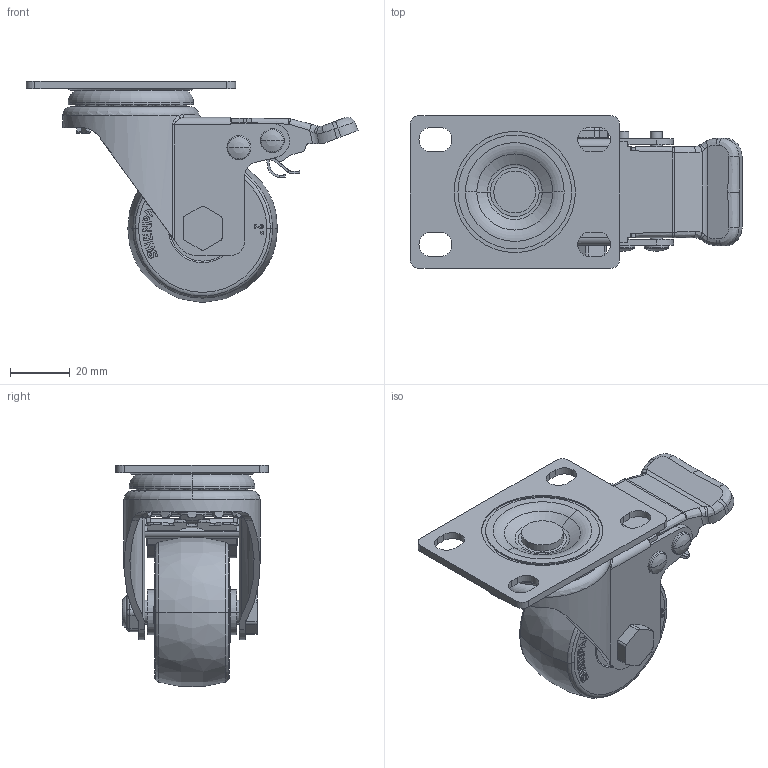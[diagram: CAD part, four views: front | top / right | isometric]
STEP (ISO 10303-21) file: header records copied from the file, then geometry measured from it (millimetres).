
FILE_DESCRIPTION(/* description */ (''),/* implementation_level */ '2;1');
FILE_NAME(/* name */ '18A07_2_F.stp',/* time_stamp */ '2022-09-03T09:38:53+08:00',/* author */ (''),/* organization */ (''),/* preprocessor_version */ 'ST-DEVELOPER v14',/* originating_system */ 'SIEMENS PLM Software NX 8.0',/* authorisation */ '');
FILE_SCHEMA (('AUTOMOTIVE_DESIGN { 1 0 10303 214 3 1 1 1 }'));
Length unit declared in the file: millimetre
Products named in the file (1): 18A07_2_F
Bounding box: 110.88 x 51 x 73.81 mm (x, y, z)
Volume: 77746.5 mm3; surface area: 47842.9 mm2
Topology: 1 solids, 4 shells, 1314 faces, 3596 edges, 2304 vertices
Faces by surface type: plane 612, cylinder 367, torus 120, sphere 79, extrusion 78, bspline 40, cone 18
Entity records: 48781 total; most frequent: CARTESIAN_POINT 16814, ORIENTED_EDGE 7032, DIRECTION 6138, EDGE_CURVE 3516, VERTEX_POINT 2303, AXIS2_PLACEMENT_3D 2230, VECTOR 1678, LINE 1600
